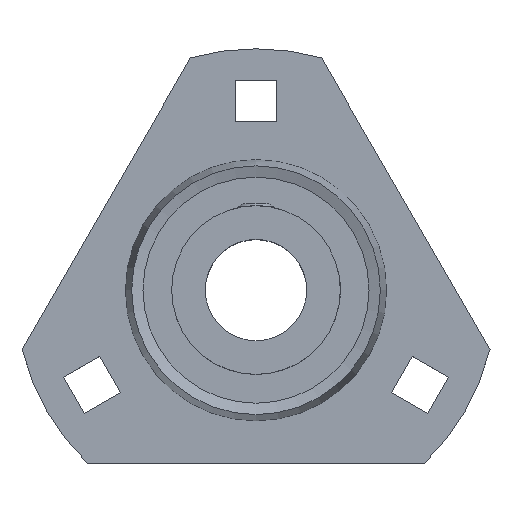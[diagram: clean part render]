
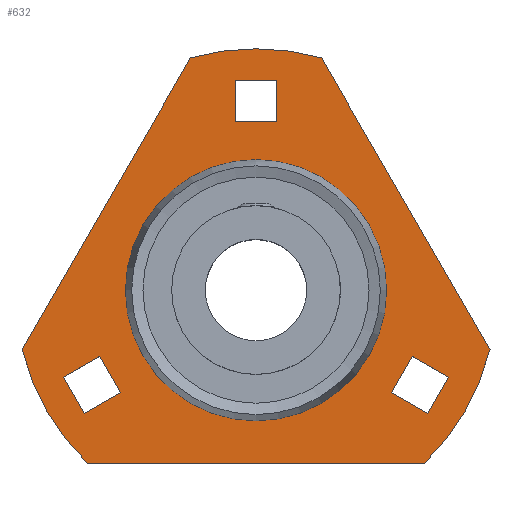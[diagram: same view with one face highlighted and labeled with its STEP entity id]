
A CAD part, top view. The second image highlights one B-rep face of the part: STEP entity #632.
In plain terms, the highlighted planar face has unit normal (0, 0, 1).
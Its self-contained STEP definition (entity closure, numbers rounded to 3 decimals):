
#122=CARTESIAN_POINT('',(-39.25,-9.983,2.0));
#123=VERTEX_POINT('',#122);
#130=CARTESIAN_POINT('',(-10.979,38.983,2.0));
#131=VERTEX_POINT('',#130);
#132=CARTESIAN_POINT('',(-39.25,-9.983,2.0));
#133=DIRECTION('',(0.5,0.866,0.0));
#134=VECTOR('',#133,56.542);
#135=LINE('',#132,#134);
#136=EDGE_CURVE('',#123,#131,#135,.T.);
#162=CARTESIAN_POINT('',(10.979,38.983,2.0));
#163=VERTEX_POINT('',#162);
#170=CARTESIAN_POINT('',(39.25,-9.983,2.0));
#171=VERTEX_POINT('',#170);
#172=CARTESIAN_POINT('',(10.979,38.983,2.0));
#173=DIRECTION('',(0.5,-0.866,0.0));
#174=VECTOR('',#173,56.542);
#175=LINE('',#172,#174);
#176=EDGE_CURVE('',#163,#171,#175,.T.);
#202=CARTESIAN_POINT('',(28.271,-29.0,2.0));
#203=VERTEX_POINT('',#202);
#210=CARTESIAN_POINT('',(-28.271,-29.,2.0));
#211=VERTEX_POINT('',#210);
#212=CARTESIAN_POINT('',(28.271,-29.,2.0));
#213=DIRECTION('',(-1.0,0.0,0.0));
#214=VECTOR('',#213,56.542);
#215=LINE('',#212,#214);
#216=EDGE_CURVE('',#203,#211,#215,.T.);
#378=CARTESIAN_POINT('',(0.0,0.0,2.0));
#379=DIRECTION('',(0.0,0.0,-1.0));
#380=DIRECTION('',(-1.0,0.0,0.0));
#381=AXIS2_PLACEMENT_3D('',#378,#379,#380);
#382=CIRCLE('',#381,40.5);
#383=EDGE_CURVE('',#211,#123,#382,.T.);
#396=CARTESIAN_POINT('',(0.0,0.0,2.0));
#397=DIRECTION('',(0.0,0.0,-1.0));
#398=DIRECTION('',(-1.0,0.0,0.0));
#399=AXIS2_PLACEMENT_3D('',#396,#397,#398);
#400=CIRCLE('',#399,40.5);
#401=EDGE_CURVE('',#171,#203,#400,.T.);
#493=CARTESIAN_POINT('',(0.0,21.91,2.));
#494=VERTEX_POINT('',#493);
#495=CARTESIAN_POINT('',(0.0,0.0,2.0));
#496=DIRECTION('',(0.0,0.0,-1.0));
#497=DIRECTION('',(0.0,1.0,0.0));
#498=AXIS2_PLACEMENT_3D('',#495,#496,#497);
#499=CIRCLE('',#498,21.91);
#500=EDGE_CURVE('',#494,#494,#499,.T.);
#508=CARTESIAN_POINT('',(0.0,0.0,2.0));
#509=DIRECTION('',(0.0,0.0,-1.0));
#510=DIRECTION('',(-1.0,0.0,0.0));
#511=AXIS2_PLACEMENT_3D('',#508,#509,#510);
#512=PLANE('',#511);
#513=ORIENTED_EDGE('',*,*,#176,.F.);
#514=CARTESIAN_POINT('',(0.0,0.0,2.0));
#515=DIRECTION('',(0.0,0.0,-1.0));
#516=DIRECTION('',(-1.0,0.0,0.0));
#517=AXIS2_PLACEMENT_3D('',#514,#515,#516);
#518=CIRCLE('',#517,40.5);
#519=EDGE_CURVE('',#131,#163,#518,.T.);
#520=ORIENTED_EDGE('',*,*,#519,.F.);
#521=ORIENTED_EDGE('',*,*,#136,.F.);
#522=ORIENTED_EDGE('',*,*,#383,.F.);
#523=ORIENTED_EDGE('',*,*,#216,.F.);
#524=ORIENTED_EDGE('',*,*,#401,.F.);
#525=EDGE_LOOP('',(#513,#520,#521,#522,#523,#524));
#526=FACE_OUTER_BOUND('',#525,.T.);
#527=CARTESIAN_POINT('',(3.5,35.25,2.0));
#528=VERTEX_POINT('',#527);
#529=CARTESIAN_POINT('',(3.5,28.25,2.0));
#530=VERTEX_POINT('',#529);
#531=CARTESIAN_POINT('',(3.5,35.25,2.0));
#532=DIRECTION('',(0.0,-1.0,0.0));
#533=VECTOR('',#532,7.0);
#534=LINE('',#531,#533);
#535=EDGE_CURVE('',#528,#530,#534,.T.);
#536=ORIENTED_EDGE('',*,*,#535,.T.);
#537=CARTESIAN_POINT('',(-3.5,28.25,2.0));
#538=VERTEX_POINT('',#537);
#539=CARTESIAN_POINT('',(3.5,28.25,2.0));
#540=DIRECTION('',(-1.0,0.0,0.0));
#541=VECTOR('',#540,7.0);
#542=LINE('',#539,#541);
#543=EDGE_CURVE('',#530,#538,#542,.T.);
#544=ORIENTED_EDGE('',*,*,#543,.T.);
#545=CARTESIAN_POINT('',(-3.5,35.25,2.0));
#546=VERTEX_POINT('',#545);
#547=CARTESIAN_POINT('',(-3.5,28.25,2.0));
#548=DIRECTION('',(0.0,1.0,0.0));
#549=VECTOR('',#548,7.0);
#550=LINE('',#547,#549);
#551=EDGE_CURVE('',#538,#546,#550,.T.);
#552=ORIENTED_EDGE('',*,*,#551,.T.);
#553=CARTESIAN_POINT('',(-3.5,35.25,2.0));
#554=DIRECTION('',(1.0,0.0,0.0));
#555=VECTOR('',#554,7.);
#556=LINE('',#553,#555);
#557=EDGE_CURVE('',#546,#528,#556,.T.);
#558=ORIENTED_EDGE('',*,*,#557,.T.);
#559=EDGE_LOOP('',(#536,#544,#552,#558));
#560=FACE_BOUND('',#559,.T.);
#561=CARTESIAN_POINT('',(-32.277,-14.594,2.0));
#562=VERTEX_POINT('',#561);
#563=CARTESIAN_POINT('',(-26.215,-11.094,2.0));
#564=VERTEX_POINT('',#563);
#565=CARTESIAN_POINT('',(-32.277,-14.594,2.0));
#566=DIRECTION('',(0.866,0.5,0.0));
#567=VECTOR('',#566,7.);
#568=LINE('',#565,#567);
#569=EDGE_CURVE('',#562,#564,#568,.T.);
#570=ORIENTED_EDGE('',*,*,#569,.T.);
#571=CARTESIAN_POINT('',(-22.715,-17.156,2.0));
#572=VERTEX_POINT('',#571);
#573=CARTESIAN_POINT('',(-26.215,-11.094,2.0));
#574=DIRECTION('',(0.5,-0.866,0.0));
#575=VECTOR('',#574,7.0);
#576=LINE('',#573,#575);
#577=EDGE_CURVE('',#564,#572,#576,.T.);
#578=ORIENTED_EDGE('',*,*,#577,.T.);
#579=CARTESIAN_POINT('',(-28.777,-20.656,2.0));
#580=VERTEX_POINT('',#579);
#581=CARTESIAN_POINT('',(-22.715,-17.156,2.0));
#582=DIRECTION('',(-0.866,-0.5,0.0));
#583=VECTOR('',#582,7.);
#584=LINE('',#581,#583);
#585=EDGE_CURVE('',#572,#580,#584,.T.);
#586=ORIENTED_EDGE('',*,*,#585,.T.);
#587=CARTESIAN_POINT('',(-28.777,-20.656,2.0));
#588=DIRECTION('',(-0.5,0.866,0.0));
#589=VECTOR('',#588,7.);
#590=LINE('',#587,#589);
#591=EDGE_CURVE('',#580,#562,#590,.T.);
#592=ORIENTED_EDGE('',*,*,#591,.T.);
#593=EDGE_LOOP('',(#570,#578,#586,#592));
#594=FACE_BOUND('',#593,.T.);
#595=CARTESIAN_POINT('',(28.777,-20.656,2.0));
#596=VERTEX_POINT('',#595);
#597=CARTESIAN_POINT('',(22.715,-17.156,2.0));
#598=VERTEX_POINT('',#597);
#599=CARTESIAN_POINT('',(28.777,-20.656,2.0));
#600=DIRECTION('',(-0.866,0.5,0.0));
#601=VECTOR('',#600,7.);
#602=LINE('',#599,#601);
#603=EDGE_CURVE('',#596,#598,#602,.T.);
#604=ORIENTED_EDGE('',*,*,#603,.T.);
#605=CARTESIAN_POINT('',(26.215,-11.094,2.0));
#606=VERTEX_POINT('',#605);
#607=CARTESIAN_POINT('',(22.715,-17.156,2.0));
#608=DIRECTION('',(0.5,0.866,0.0));
#609=VECTOR('',#608,7.);
#610=LINE('',#607,#609);
#611=EDGE_CURVE('',#598,#606,#610,.T.);
#612=ORIENTED_EDGE('',*,*,#611,.T.);
#613=CARTESIAN_POINT('',(32.277,-14.594,2.0));
#614=VERTEX_POINT('',#613);
#615=CARTESIAN_POINT('',(26.215,-11.094,2.0));
#616=DIRECTION('',(0.866,-0.5,0.0));
#617=VECTOR('',#616,7.);
#618=LINE('',#615,#617);
#619=EDGE_CURVE('',#606,#614,#618,.T.);
#620=ORIENTED_EDGE('',*,*,#619,.T.);
#621=CARTESIAN_POINT('',(32.277,-14.594,2.0));
#622=DIRECTION('',(-0.5,-0.866,0.0));
#623=VECTOR('',#622,7.);
#624=LINE('',#621,#623);
#625=EDGE_CURVE('',#614,#596,#624,.T.);
#626=ORIENTED_EDGE('',*,*,#625,.T.);
#627=EDGE_LOOP('',(#604,#612,#620,#626));
#628=FACE_BOUND('',#627,.T.);
#629=ORIENTED_EDGE('',*,*,#500,.T.);
#630=EDGE_LOOP('',(#629));
#631=FACE_BOUND('',#630,.T.);
#632=ADVANCED_FACE('',(#526,#560,#594,#628,#631),#512,.F.);
